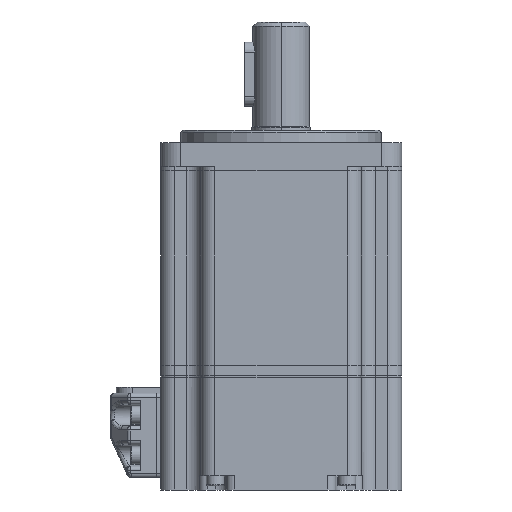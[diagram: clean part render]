
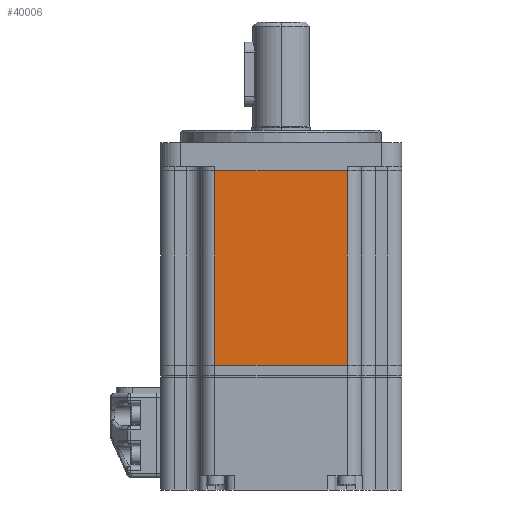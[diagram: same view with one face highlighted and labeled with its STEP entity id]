
A CAD part, front view. The second image highlights one B-rep face of the part: STEP entity #40006.
In plain terms, the highlighted planar face has unit normal (0, -1, 0).
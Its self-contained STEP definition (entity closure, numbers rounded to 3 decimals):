
#859 = CARTESIAN_POINT ( 'NONE',  ( 20., -30., -49.5 ) ) ;
#1624 = FACE_OUTER_BOUND ( 'NONE', #31254, .T. ) ;
#4206 = DIRECTION ( 'NONE',  ( -1., 0., 0. ) ) ;
#6462 = LINE ( 'NONE', #7653, #23085 ) ;
#6647 = DIRECTION ( 'NONE',  ( 0., 0., 1. ) ) ;
#7565 = VECTOR ( 'NONE', #4206, 1000. ) ;
#7653 = CARTESIAN_POINT ( 'NONE',  ( 20., -30., -1. ) ) ;
#9858 = CARTESIAN_POINT ( 'NONE',  ( -16.5, -30., -1. ) ) ;
#11127 = VERTEX_POINT ( 'NONE', #9858 ) ;
#12422 = ORIENTED_EDGE ( 'NONE', *, *, #27419, .F. ) ;
#12865 = DIRECTION ( 'NONE',  ( 0., 0., -1. ) ) ;
#13358 = LINE ( 'NONE', #36068, #30964 ) ;
#15406 = EDGE_CURVE ( 'NONE', #36039, #19588, #31777, .T. ) ;
#16772 = CARTESIAN_POINT ( 'NONE',  ( -16.5, -30., -49.5 ) ) ;
#17687 = CARTESIAN_POINT ( 'NONE',  ( 16.5, -30., -1. ) ) ;
#18514 = ORIENTED_EDGE ( 'NONE', *, *, #15406, .T. ) ;
#19588 = VERTEX_POINT ( 'NONE', #17687 ) ;
#20257 = CARTESIAN_POINT ( 'NONE',  ( 16.5, -30., -49.5 ) ) ;
#21265 = ORIENTED_EDGE ( 'NONE', *, *, #29332, .T. ) ;
#21302 = EDGE_CURVE ( 'NONE', #11127, #36471, #13358, .T. ) ;
#21789 = DIRECTION ( 'NONE',  ( 0., 0., 1. ) ) ;
#22961 = VECTOR ( 'NONE', #6647, 1000. ) ;
#23085 = VECTOR ( 'NONE', #24341, 1000. ) ;
#23201 = AXIS2_PLACEMENT_3D ( 'NONE', #31646, #41642, #21789 ) ;
#24341 = DIRECTION ( 'NONE',  ( -1., 0., 0. ) ) ;
#25575 = ORIENTED_EDGE ( 'NONE', *, *, #21302, .T. ) ;
#27419 = EDGE_CURVE ( 'NONE', #36039, #36471, #34045, .T. ) ;
#28302 = PLANE ( 'NONE',  #23201 ) ;
#29332 = EDGE_CURVE ( 'NONE', #19588, #11127, #6462, .T. ) ;
#30964 = VECTOR ( 'NONE', #12865, 1000. ) ;
#31254 = EDGE_LOOP ( 'NONE', ( #12422, #18514, #21265, #25575 ) ) ;
#31646 = CARTESIAN_POINT ( 'NONE',  ( 20., -30., -49.5 ) ) ;
#31777 = LINE ( 'NONE', #36133, #22961 ) ;
#34045 = LINE ( 'NONE', #859, #7565 ) ;
#36039 = VERTEX_POINT ( 'NONE', #20257 ) ;
#36068 = CARTESIAN_POINT ( 'NONE',  ( -16.5, -30., -49.5 ) ) ;
#36133 = CARTESIAN_POINT ( 'NONE',  ( 16.5, -30., -49.5 ) ) ;
#36471 = VERTEX_POINT ( 'NONE', #16772 ) ;
#40006 = ADVANCED_FACE ( 'NONE', ( #1624 ), #28302, .F. ) ;
#41642 = DIRECTION ( 'NONE',  ( 0., 1., 0. ) ) ;
